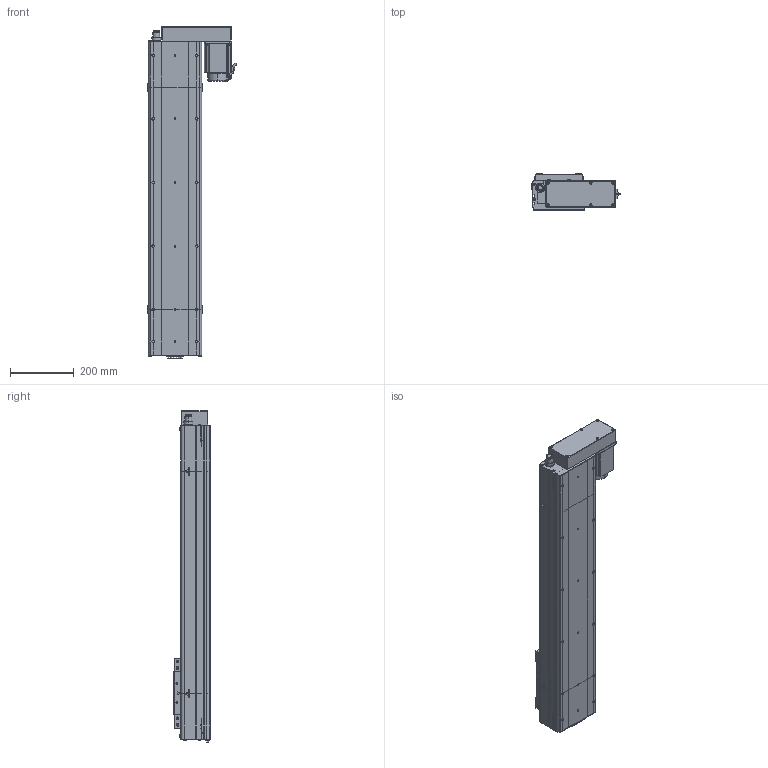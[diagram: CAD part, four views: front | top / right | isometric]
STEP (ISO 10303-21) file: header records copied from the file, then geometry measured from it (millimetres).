
FILE_DESCRIPTION (( 'STEP AP214' ), '1' );
FILE_NAME ('D17 CSH BL S700.STEP', '2010-06-29T14:08:32', ( 'Christophe Gaillard' ), ( 'SGA' ), 'SwSTEP 2.0', 'SolidWorks 2010', '' );
FILE_SCHEMA (( 'AUTOMOTIVE_DESIGN' ));
Length unit declared in the file: millimetre
Products named in the file (29): Corp Head  D17 BL_Default; Plaque de bout D17 head BL_Default; couvercle D17 head BL_Default; Conecteur_Default; vis M5 L47_Default; Support Moteur BL_Default; plaque de serrage D17 head BL_Default; Moteur motionking 90BLDC100A-640; avant 90BLDC100A-640; vis M5 L60_Default; Conecteur2_Default; corps 90BLDC100A-640; ecrou_Default; Corp Tail D17+100_Default; codeur 90BLDC100-640; couvercle D17-700_Default; Corp L700_Default; chariot D17_Default; Plaque de bout D17_Default; Corp D17 S700_Default; Tail D17+100_Default; plaque de serrage D17_Default; Chariot D17_Default; couvercle D17_Default; support chariot D17_Default; glissiere_Default; vis M5 L15_Default; D17 CSH BL S700; Head D17 BL_Default
Assembly tree (52 placements, depth 4):
  D17 CSH BL S700
    Corp D17 S700_Default
      Corp L700_Default
      couvercle D17-700_Default
    Tail D17+100_Default
      plaque de serrage D17_Default
      Corp Tail D17+100_Default
      vis M5 L15_Default  x6
      couvercle D17_Default
      Plaque de bout D17_Default
    Head D17 BL_Default
      Plaque de bout D17 head BL_Default
      vis M5 L47_Default  x2
      vis M5 L15_Default  x4
      Support Moteur BL_Default
      vis M5 L60_Default  x4
      ecrou_Default  x4
      Corp Head  D17 BL_Default
      plaque de serrage D17 head BL_Default
      Moteur motionking 90BLDC100A-640
        codeur 90BLDC100-640
        corps 90BLDC100A-640
        Conecteur_Default
        avant 90BLDC100A-640
        Conecteur2_Default
      couvercle D17 head BL_Default
    Chariot D17_Default
      chariot D17_Default
      vis M5 L15_Default  x8
      support chariot D17_Default
      glissiere_Default
Bounding box: 279.16 x 114 x 1044.2 mm (x, y, z)
Volume: 7941014.2 mm3; surface area: 1422344 mm2
Topology: 89 solids, 89 shells, 3173 faces, 7990 edges, 5210 vertices
Faces by surface type: plane 1880, bspline 758, cylinder 416, torus 67, cone 48, sphere 4
Entity records: 148730 total; most frequent: CARTESIAN_POINT 81059, ORIENTED_EDGE 13520, DIRECTION 9772, EDGE_CURVE 6760, VECTOR 4566, LINE 4566, VERTEX_POINT 4478, EDGE_LOOP 2870
